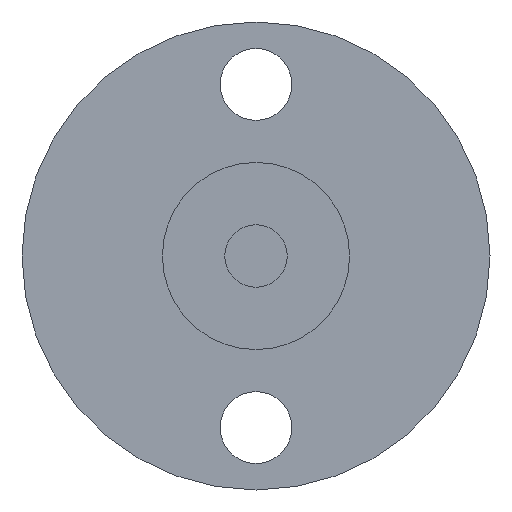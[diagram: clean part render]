
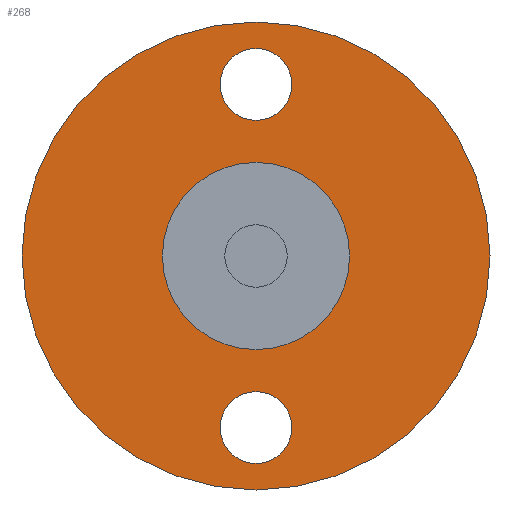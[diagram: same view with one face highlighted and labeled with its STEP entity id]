
A CAD part, left-side view. The second image highlights one B-rep face of the part: STEP entity #268.
In plain terms, the highlighted planar face has unit normal (-1, 0, 0).
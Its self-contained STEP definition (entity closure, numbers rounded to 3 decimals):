
#43 = CYLINDRICAL_SURFACE('',#44,7.5);
#44 = AXIS2_PLACEMENT_3D('',#45,#46,#47);
#45 = CARTESIAN_POINT('',(-42.,28.,244.5));
#46 = DIRECTION('',(1.,0.,0.));
#47 = DIRECTION('',(0.,0.,1.));
#74 = CYLINDRICAL_SURFACE('',#75,1.15);
#75 = AXIS2_PLACEMENT_3D('',#76,#77,#78);
#76 = CARTESIAN_POINT('',(-42.,28.,239.));
#77 = DIRECTION('',(1.,0.,0.));
#78 = DIRECTION('',(0.,0.,1.));
#105 = CYLINDRICAL_SURFACE('',#106,1.15);
#106 = AXIS2_PLACEMENT_3D('',#107,#108,#109);
#107 = CARTESIAN_POINT('',(-42.,28.,250.));
#108 = DIRECTION('',(1.,0.,0.));
#109 = DIRECTION('',(0.,0.,1.));
#122 = VERTEX_POINT('',#123);
#123 = CARTESIAN_POINT('',(-42.,28.,237.));
#143 = EDGE_CURVE('',#122,#122,#144,.T.);
#144 = SURFACE_CURVE('',#145,(#150,#157),.PCURVE_S1.);
#145 = CIRCLE('',#146,7.5);
#146 = AXIS2_PLACEMENT_3D('',#147,#148,#149);
#147 = CARTESIAN_POINT('',(-42.,28.,244.5));
#148 = DIRECTION('',(1.,-0.,0.));
#149 = DIRECTION('',(0.,0.,-1.));
#150 = PCURVE('',#43,#151);
#151 = DEFINITIONAL_REPRESENTATION('',(#152),#156);
#152 = LINE('',#153,#154);
#153 = CARTESIAN_POINT('',(3.142,0.));
#154 = VECTOR('',#155,1.);
#155 = DIRECTION('',(1.,0.));
#156 = ( GEOMETRIC_REPRESENTATION_CONTEXT(2) 
PARAMETRIC_REPRESENTATION_CONTEXT() REPRESENTATION_CONTEXT('2D SPACE',''
  ) );
#157 = PCURVE('',#158,#163);
#158 = PLANE('',#159);
#159 = AXIS2_PLACEMENT_3D('',#160,#161,#162);
#160 = CARTESIAN_POINT('',(-42.,28.,244.5));
#161 = DIRECTION('',(1.,0.,0.));
#162 = DIRECTION('',(0.,0.,1.));
#163 = DEFINITIONAL_REPRESENTATION('',(#164),#168);
#164 = CIRCLE('',#165,7.5);
#165 = AXIS2_PLACEMENT_2D('',#166,#167);
#166 = CARTESIAN_POINT('',(0.,0.));
#167 = DIRECTION('',(-1.,0.));
#168 = ( GEOMETRIC_REPRESENTATION_CONTEXT(2) 
PARAMETRIC_REPRESENTATION_CONTEXT() REPRESENTATION_CONTEXT('2D SPACE',''
  ) );
#176 = VERTEX_POINT('',#177);
#177 = CARTESIAN_POINT('',(-42.,28.,237.85));
#197 = EDGE_CURVE('',#176,#176,#198,.T.);
#198 = SURFACE_CURVE('',#199,(#204,#211),.PCURVE_S1.);
#199 = CIRCLE('',#200,1.15);
#200 = AXIS2_PLACEMENT_3D('',#201,#202,#203);
#201 = CARTESIAN_POINT('',(-42.,28.,239.));
#202 = DIRECTION('',(1.,-0.,0.));
#203 = DIRECTION('',(0.,0.,-1.));
#204 = PCURVE('',#74,#205);
#205 = DEFINITIONAL_REPRESENTATION('',(#206),#210);
#206 = LINE('',#207,#208);
#207 = CARTESIAN_POINT('',(3.142,0.));
#208 = VECTOR('',#209,1.);
#209 = DIRECTION('',(1.,0.));
#210 = ( GEOMETRIC_REPRESENTATION_CONTEXT(2) 
PARAMETRIC_REPRESENTATION_CONTEXT() REPRESENTATION_CONTEXT('2D SPACE',''
  ) );
#211 = PCURVE('',#158,#212);
#212 = DEFINITIONAL_REPRESENTATION('',(#213),#217);
#213 = CIRCLE('',#214,1.15);
#214 = AXIS2_PLACEMENT_2D('',#215,#216);
#215 = CARTESIAN_POINT('',(-5.5,0.));
#216 = DIRECTION('',(-1.,0.));
#217 = ( GEOMETRIC_REPRESENTATION_CONTEXT(2) 
PARAMETRIC_REPRESENTATION_CONTEXT() REPRESENTATION_CONTEXT('2D SPACE',''
  ) );
#225 = VERTEX_POINT('',#226);
#226 = CARTESIAN_POINT('',(-42.,28.,248.85));
#246 = EDGE_CURVE('',#225,#225,#247,.T.);
#247 = SURFACE_CURVE('',#248,(#253,#260),.PCURVE_S1.);
#248 = CIRCLE('',#249,1.15);
#249 = AXIS2_PLACEMENT_3D('',#250,#251,#252);
#250 = CARTESIAN_POINT('',(-42.,28.,250.));
#251 = DIRECTION('',(1.,-0.,0.));
#252 = DIRECTION('',(0.,0.,-1.));
#253 = PCURVE('',#105,#254);
#254 = DEFINITIONAL_REPRESENTATION('',(#255),#259);
#255 = LINE('',#256,#257);
#256 = CARTESIAN_POINT('',(3.142,0.));
#257 = VECTOR('',#258,1.);
#258 = DIRECTION('',(1.,0.));
#259 = ( GEOMETRIC_REPRESENTATION_CONTEXT(2) 
PARAMETRIC_REPRESENTATION_CONTEXT() REPRESENTATION_CONTEXT('2D SPACE',''
  ) );
#260 = PCURVE('',#158,#261);
#261 = DEFINITIONAL_REPRESENTATION('',(#262),#266);
#262 = CIRCLE('',#263,1.15);
#263 = AXIS2_PLACEMENT_2D('',#264,#265);
#264 = CARTESIAN_POINT('',(5.5,0.));
#265 = DIRECTION('',(-1.,0.));
#266 = ( GEOMETRIC_REPRESENTATION_CONTEXT(2) 
PARAMETRIC_REPRESENTATION_CONTEXT() REPRESENTATION_CONTEXT('2D SPACE',''
  ) );
#268 = ADVANCED_FACE('',(#269,#272,#275,#306),#158,.F.);
#269 = FACE_BOUND('',#270,.T.);
#270 = EDGE_LOOP('',(#271));
#271 = ORIENTED_EDGE('',*,*,#143,.F.);
#272 = FACE_BOUND('',#273,.T.);
#273 = EDGE_LOOP('',(#274));
#274 = ORIENTED_EDGE('',*,*,#197,.T.);
#275 = FACE_BOUND('',#276,.T.);
#276 = EDGE_LOOP('',(#277));
#277 = ORIENTED_EDGE('',*,*,#278,.T.);
#278 = EDGE_CURVE('',#279,#279,#281,.T.);
#279 = VERTEX_POINT('',#280);
#280 = CARTESIAN_POINT('',(-42.,28.,241.5));
#281 = SURFACE_CURVE('',#282,(#287,#294),.PCURVE_S1.);
#282 = CIRCLE('',#283,3.);
#283 = AXIS2_PLACEMENT_3D('',#284,#285,#286);
#284 = CARTESIAN_POINT('',(-42.,28.,244.5));
#285 = DIRECTION('',(1.,-0.,0.));
#286 = DIRECTION('',(0.,0.,-1.));
#287 = PCURVE('',#158,#288);
#288 = DEFINITIONAL_REPRESENTATION('',(#289),#293);
#289 = CIRCLE('',#290,3.);
#290 = AXIS2_PLACEMENT_2D('',#291,#292);
#291 = CARTESIAN_POINT('',(0.,0.));
#292 = DIRECTION('',(-1.,0.));
#293 = ( GEOMETRIC_REPRESENTATION_CONTEXT(2) 
PARAMETRIC_REPRESENTATION_CONTEXT() REPRESENTATION_CONTEXT('2D SPACE',''
  ) );
#294 = PCURVE('',#295,#300);
#295 = CYLINDRICAL_SURFACE('',#296,3.);
#296 = AXIS2_PLACEMENT_3D('',#297,#298,#299);
#297 = CARTESIAN_POINT('',(-52.,28.,244.5));
#298 = DIRECTION('',(1.,0.,0.));
#299 = DIRECTION('',(0.,0.,1.));
#300 = DEFINITIONAL_REPRESENTATION('',(#301),#305);
#301 = LINE('',#302,#303);
#302 = CARTESIAN_POINT('',(3.142,10.));
#303 = VECTOR('',#304,1.);
#304 = DIRECTION('',(1.,0.));
#305 = ( GEOMETRIC_REPRESENTATION_CONTEXT(2) 
PARAMETRIC_REPRESENTATION_CONTEXT() REPRESENTATION_CONTEXT('2D SPACE',''
  ) );
#306 = FACE_BOUND('',#307,.T.);
#307 = EDGE_LOOP('',(#308));
#308 = ORIENTED_EDGE('',*,*,#246,.T.);
